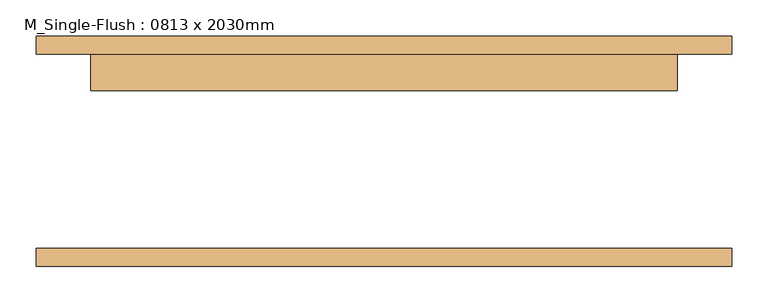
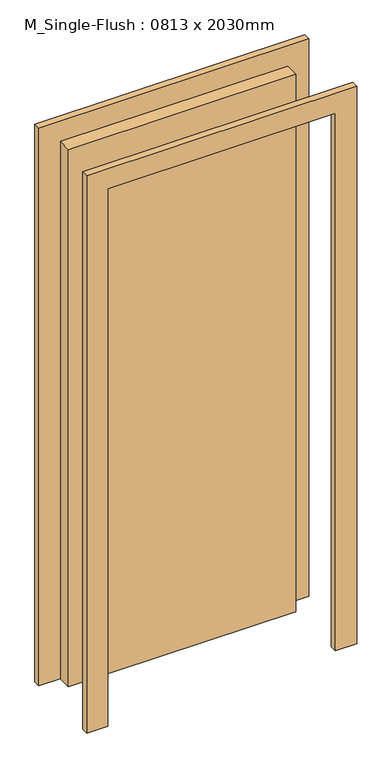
"""IFC4 building model written with IfcOpenShell, lengths in millimetres: door geometry, M_Single-Flush : 0813 x 2030mm."""

from ifc_helpers import new_model, si_unit, frame, origin, origin_with_axes, place, context, project, spatial, polyline, outline, extrude, source, transform, mapped, element, save


def m_single_flush_0813_x_2030mm_9c258038(model_context):
    return source(origin(), model_context, "Body", "SweptSolid", [
        extrude(outline(polyline([(2106.0, -482.5), (0.0, -482.5), (0.0, -406.5), (2030.0, -406.5), (2030.0, 406.5), (0.0, 406.5), (0.0, 482.5), (2106.0, 482.5), (2106.0, -482.5)])), frame((0.0, 135.0, 0.0), z_axis=(0.0, 1.0, 0.0), x_axis=(0.0, 0.0, 1.0)), (0.0, 0.0, 1.0), 25.0),
        extrude(outline(polyline([(2106.0, 482.5), (2106.0, -482.5), (0.0, -482.5), (0.0, -406.5), (2030.0, -406.5), (2030.0, 406.5), (0.0, 406.5), (0.0, 482.5), (2106.0, 482.5)])), frame((0.0, -160.0, 0.0), z_axis=(0.0, 1.0, 0.0), x_axis=(0.0, 0.0, 1.0)), (0.0, 0.0, 1.0), 25.0),
        extrude(outline(polyline([(406.5, 84.0), (-406.5, 84.0), (-406.5, 135.0), (406.5, 135.0), (406.5, 84.0)])), origin_with_axes(), (0.0, 0.0, 1.0), 2030.0),
    ])


if __name__ == "__main__":
    model = new_model("IFC4")
    model_context = context("Model", 3, world=origin())
    ifc_project = project(units=[si_unit("LENGTHUNIT", "METRE", prefix="MILLI")], contexts=[model_context])
    site = spatial("IfcSite", under=ifc_project)
    building = spatial("IfcBuilding", under=site)
    placement = place(None, origin())
    m_single_flush_0813_x_2030mm_shape = m_single_flush_0813_x_2030mm_9c258038(model_context)
    element("IfcDoor", 1, ObjectType="M_Single-Flush : 0813 x 2030mm", at=placement, inside=building, context=model_context, shape_type="MappedRepresentation", body=[
        mapped(m_single_flush_0813_x_2030mm_shape, transform((0.0, 0.0, 0.0), x_axis=(1.0, 0.0, 0.0), y_axis=(0.0, 1.0, 0.0), z_axis=(0.0, 0.0, 1.0))),
    ])
    save(model, "model.ifc")
